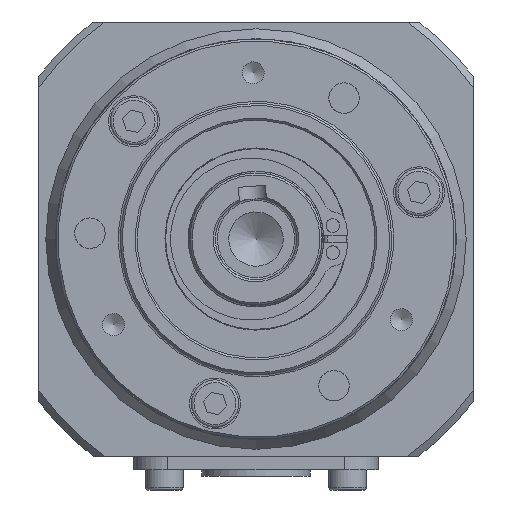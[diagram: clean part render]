
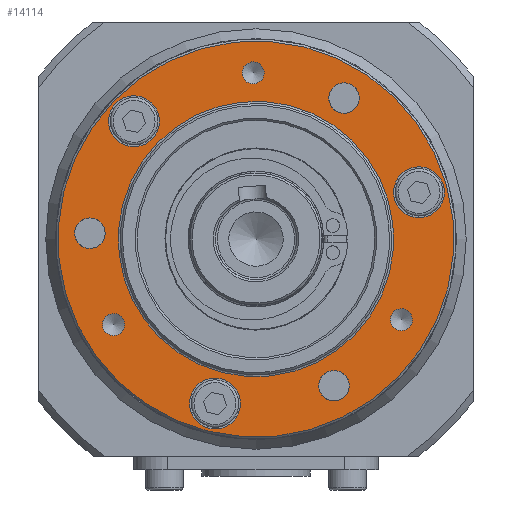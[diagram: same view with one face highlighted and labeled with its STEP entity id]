
A CAD part, left-side view. The second image highlights one B-rep face of the part: STEP entity #14114.
In plain terms, the highlighted planar face has unit normal (-1, 0, 0).
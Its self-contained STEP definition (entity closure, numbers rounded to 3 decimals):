
#3228=FACE_BOUND('',#4544,.T.);
#3229=FACE_BOUND('',#4545,.T.);
#3230=FACE_BOUND('',#4546,.T.);
#3231=FACE_BOUND('',#4547,.T.);
#3232=FACE_BOUND('',#4548,.T.);
#3233=FACE_BOUND('',#4549,.T.);
#3234=FACE_BOUND('',#4550,.T.);
#3235=FACE_BOUND('',#4551,.T.);
#3236=FACE_BOUND('',#4552,.T.);
#3237=FACE_BOUND('',#4553,.T.);
#3578=FACE_OUTER_BOUND('',#4543,.T.);
#4543=EDGE_LOOP('',(#10084));
#4544=EDGE_LOOP('',(#10085));
#4545=EDGE_LOOP('',(#10086));
#4546=EDGE_LOOP('',(#10087));
#4547=EDGE_LOOP('',(#10088));
#4548=EDGE_LOOP('',(#10089));
#4549=EDGE_LOOP('',(#10090));
#4550=EDGE_LOOP('',(#10091));
#4551=EDGE_LOOP('',(#10092));
#4552=EDGE_LOOP('',(#10093));
#4553=EDGE_LOOP('',(#10094));
#5445=CIRCLE('',#15166,2.25);
#5446=CIRCLE('',#15168,2.25);
#5447=CIRCLE('',#15170,2.25);
#5450=CIRCLE('',#15175,20.3);
#5451=CIRCLE('',#15177,29.2);
#5452=CIRCLE('',#15178,1.621);
#5453=CIRCLE('',#15179,1.621);
#5454=CIRCLE('',#15180,1.621);
#5455=CIRCLE('',#15181,3.75);
#5456=CIRCLE('',#15182,3.75);
#5457=CIRCLE('',#15183,3.75);
#6254=VERTEX_POINT('',#21481);
#6255=VERTEX_POINT('',#21484);
#6256=VERTEX_POINT('',#21487);
#6259=VERTEX_POINT('',#21495);
#6260=VERTEX_POINT('',#21498);
#6261=VERTEX_POINT('',#21500);
#6262=VERTEX_POINT('',#21502);
#6263=VERTEX_POINT('',#21504);
#6264=VERTEX_POINT('',#21506);
#6265=VERTEX_POINT('',#21508);
#6266=VERTEX_POINT('',#21510);
#7709=EDGE_CURVE('',#6254,#6254,#5445,.T.);
#7710=EDGE_CURVE('',#6255,#6255,#5446,.T.);
#7711=EDGE_CURVE('',#6256,#6256,#5447,.T.);
#7714=EDGE_CURVE('',#6259,#6259,#5450,.T.);
#7715=EDGE_CURVE('',#6260,#6260,#5451,.T.);
#7716=EDGE_CURVE('',#6261,#6261,#5452,.T.);
#7717=EDGE_CURVE('',#6262,#6262,#5453,.T.);
#7718=EDGE_CURVE('',#6263,#6263,#5454,.T.);
#7719=EDGE_CURVE('',#6264,#6264,#5455,.T.);
#7720=EDGE_CURVE('',#6265,#6265,#5456,.T.);
#7721=EDGE_CURVE('',#6266,#6266,#5457,.T.);
#10084=ORIENTED_EDGE('',*,*,#7715,.F.);
#10085=ORIENTED_EDGE('',*,*,#7709,.T.);
#10086=ORIENTED_EDGE('',*,*,#7710,.T.);
#10087=ORIENTED_EDGE('',*,*,#7711,.T.);
#10088=ORIENTED_EDGE('',*,*,#7716,.T.);
#10089=ORIENTED_EDGE('',*,*,#7717,.T.);
#10090=ORIENTED_EDGE('',*,*,#7718,.T.);
#10091=ORIENTED_EDGE('',*,*,#7719,.T.);
#10092=ORIENTED_EDGE('',*,*,#7720,.T.);
#10093=ORIENTED_EDGE('',*,*,#7721,.T.);
#10094=ORIENTED_EDGE('',*,*,#7714,.F.);
#12768=PLANE('',#15176);
#14114=ADVANCED_FACE('',(#3578,#3228,#3229,#3230,#3231,#3232,#3233,#3234,
#3235,#3236,#3237),#12768,.T.);
#15166=AXIS2_PLACEMENT_3D('',#21482,#16947,#16948);
#15168=AXIS2_PLACEMENT_3D('',#21485,#16951,#16952);
#15170=AXIS2_PLACEMENT_3D('',#21488,#16955,#16956);
#15175=AXIS2_PLACEMENT_3D('',#21496,#16965,#16966);
#15176=AXIS2_PLACEMENT_3D('',#21497,#16967,#16968);
#15177=AXIS2_PLACEMENT_3D('',#21499,#16969,#16970);
#15178=AXIS2_PLACEMENT_3D('',#21501,#16971,#16972);
#15179=AXIS2_PLACEMENT_3D('',#21503,#16973,#16974);
#15180=AXIS2_PLACEMENT_3D('',#21505,#16975,#16976);
#15181=AXIS2_PLACEMENT_3D('',#21507,#16977,#16978);
#15182=AXIS2_PLACEMENT_3D('',#21509,#16979,#16980);
#15183=AXIS2_PLACEMENT_3D('',#21511,#16981,#16982);
#16947=DIRECTION('center_axis',(1.,0.,0.));
#16948=DIRECTION('ref_axis',(0.,0.276,0.961));
#16951=DIRECTION('center_axis',(1.,0.,0.));
#16952=DIRECTION('ref_axis',(0.,0.276,0.961));
#16955=DIRECTION('center_axis',(1.,0.,0.));
#16956=DIRECTION('ref_axis',(0.,0.276,0.961));
#16965=DIRECTION('center_axis',(-1.,0.,0.));
#16966=DIRECTION('ref_axis',(0.,-0.961,0.276));
#16967=DIRECTION('center_axis',(-1.,0.,0.));
#16968=DIRECTION('ref_axis',(0.,0.276,0.961));
#16969=DIRECTION('center_axis',(1.,0.,0.));
#16970=DIRECTION('ref_axis',(0.,-0.961,0.276));
#16971=DIRECTION('center_axis',(1.,0.,0.));
#16972=DIRECTION('ref_axis',(0.,0.276,0.961));
#16973=DIRECTION('center_axis',(1.,0.,0.));
#16974=DIRECTION('ref_axis',(0.,0.276,0.961));
#16975=DIRECTION('center_axis',(1.,0.,0.));
#16976=DIRECTION('ref_axis',(0.,0.276,0.961));
#16977=DIRECTION('center_axis',(1.,0.,0.));
#16978=DIRECTION('ref_axis',(0.,0.276,0.961));
#16979=DIRECTION('center_axis',(1.,0.,0.));
#16980=DIRECTION('ref_axis',(0.,0.276,0.961));
#16981=DIRECTION('center_axis',(1.,0.,0.));
#16982=DIRECTION('ref_axis',(0.,0.276,0.961));
#21481=CARTESIAN_POINT('',(3.,-12.122,-23.795));
#21482=CARTESIAN_POINT('Origin',(3.,-11.502,-21.632));
#21484=CARTESIAN_POINT('',(3.,-13.603,18.614));
#21485=CARTESIAN_POINT('Origin',(3.,-12.983,20.777));
#21487=CARTESIAN_POINT('',(3.,23.865,-1.308));
#21488=CARTESIAN_POINT('Origin',(3.,24.485,0.855));
#21495=CARTESIAN_POINT('',(3.,19.514,-5.595));
#21496=CARTESIAN_POINT('Origin',(3.,0.,
0.));
#21497=CARTESIAN_POINT('Origin',(3.,23.791,-6.822));
#21498=CARTESIAN_POINT('',(3.,28.069,-8.049));
#21499=CARTESIAN_POINT('Origin',(3.,0.,
0.));
#21500=CARTESIAN_POINT('',(3.,-0.019,22.938));
#21501=CARTESIAN_POINT('Origin',(3.,0.428,24.496));
#21502=CARTESIAN_POINT('',(3.,20.554,-14.177));
#21503=CARTESIAN_POINT('Origin',(3.,21.001,-12.618));
#21504=CARTESIAN_POINT('',(3.,-21.875,-13.436));
#21505=CARTESIAN_POINT('Origin',(3.,-21.428,-11.878));
#21506=CARTESIAN_POINT('',(3.,16.95,13.762));
#21507=CARTESIAN_POINT('Origin',(3.,17.983,17.366));
#21508=CARTESIAN_POINT('',(3.,5.014,-27.862));
#21509=CARTESIAN_POINT('Origin',(3.,6.048,-24.257));
#21510=CARTESIAN_POINT('',(3.,-25.065,3.286));
#21511=CARTESIAN_POINT('Origin',(3.,-24.032,6.891));
